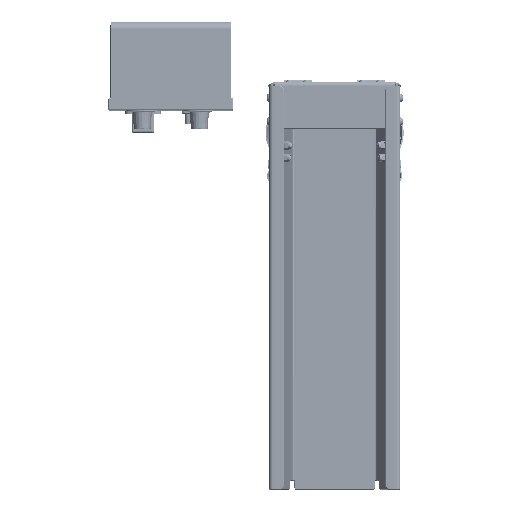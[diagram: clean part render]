
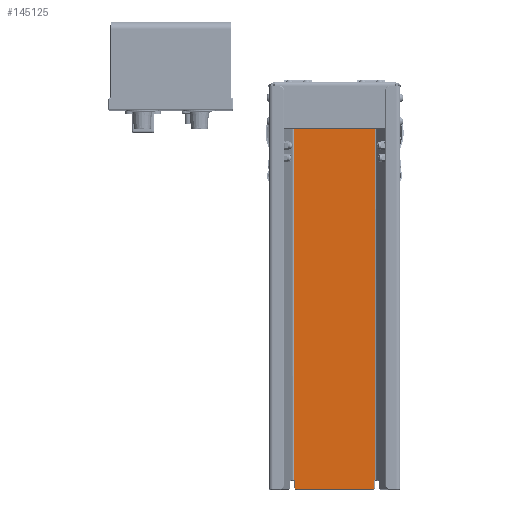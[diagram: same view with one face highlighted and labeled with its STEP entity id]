
A CAD part, top view. The second image highlights one B-rep face of the part: STEP entity #145125.
In plain terms, the highlighted planar face has unit normal (0, 0, 1).
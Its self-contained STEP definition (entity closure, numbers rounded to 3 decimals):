
#845 = CARTESIAN_POINT ( 'NONE',  ( 0., 0., 0. ) ) ;
#5058 = CARTESIAN_POINT ( 'NONE',  ( -43.145, 188.8, 0. ) ) ;
#10599 = CIRCLE ( 'NONE', #62166, 2.3 ) ;
#12305 = CARTESIAN_POINT ( 'NONE',  ( -43.145, -198.791, 0. ) ) ;
#12406 = CARTESIAN_POINT ( 'NONE',  ( 40.145, 198.8, 0. ) ) ;
#13877 = ORIENTED_EDGE ( 'NONE', *, *, #35421, .T. ) ;
#14704 = ORIENTED_EDGE ( 'NONE', *, *, #88274, .F. ) ;
#14991 = DIRECTION ( 'NONE',  ( 0., 0., 1. ) ) ;
#18795 = CARTESIAN_POINT ( 'NONE',  ( -43.183, -198.8, 0. ) ) ;
#20600 = CARTESIAN_POINT ( 'NONE',  ( -43.145, -198.791, 0. ) ) ;
#20686 = CARTESIAN_POINT ( 'NONE',  ( 42.445, 196.5, 0. ) ) ;
#21455 = ORIENTED_EDGE ( 'NONE', *, *, #108780, .T. ) ;
#23257 = VECTOR ( 'NONE', #95340, 1000. ) ;
#24450 = EDGE_CURVE ( 'NONE', #147743, #139683, #129106, .T. ) ;
#24536 = CARTESIAN_POINT ( 'NONE',  ( -42.445, 188.8, 0. ) ) ;
#25183 = CARTESIAN_POINT ( 'NONE',  ( 42.445, 196.5, 0. ) ) ;
#27006 = PLANE ( 'NONE',  #40983 ) ;
#27313 = DIRECTION ( 'NONE',  ( 1., 0., 0. ) ) ;
#28987 = VERTEX_POINT ( 'NONE', #12305 ) ;
#29985 = CARTESIAN_POINT ( 'NONE',  ( 42.445, 188.8, 0. ) ) ;
#30599 = CARTESIAN_POINT ( 'NONE',  ( -43.183, -198.8, 0. ) ) ;
#33624 = VERTEX_POINT ( 'NONE', #70149 ) ;
#33935 = ORIENTED_EDGE ( 'NONE', *, *, #38074, .T. ) ;
#34657 = CARTESIAN_POINT ( 'NONE',  ( -43.145, -200.054, 0. ) ) ;
#35206 = DIRECTION ( 'NONE',  ( 0., 1., 0. ) ) ;
#35421 = EDGE_CURVE ( 'NONE', #146135, #147743, #67062, .T. ) ;
#37361 = CARTESIAN_POINT ( 'NONE',  ( 0., -198.8, 0. ) ) ;
#38074 = EDGE_CURVE ( 'NONE', #145109, #117122, #140416, .T. ) ;
#38214 = DIRECTION ( 'NONE',  ( 1., 0., 0. ) ) ;
#40933 = VECTOR ( 'NONE', #140701, 1000. ) ;
#40983 = AXIS2_PLACEMENT_3D ( 'NONE', #845, #59357, #133196 ) ;
#44413 = VECTOR ( 'NONE', #57776, 1000. ) ;
#44550 = EDGE_CURVE ( 'NONE', #139683, #145109, #10599, .T. ) ;
#45653 = CARTESIAN_POINT ( 'NONE',  ( 43.145, 188.8, 0. ) ) ;
#48434 = DIRECTION ( 'NONE',  ( 0., -1., 0. ) ) ;
#50850 = FACE_OUTER_BOUND ( 'NONE', #92938, .T. ) ;
#57776 = DIRECTION ( 'NONE',  ( -1., 0., 0. ) ) ;
#59357 = DIRECTION ( 'NONE',  ( 0., 0., 1. ) ) ;
#59404 = VECTOR ( 'NONE', #96545, 1000. ) ;
#60227 = CARTESIAN_POINT ( 'NONE',  ( 43.158, -198.794, 0. ) ) ;
#62166 = AXIS2_PLACEMENT_3D ( 'NONE', #75846, #122823, #38214 ) ;
#62680 = LINE ( 'NONE', #37361, #59404 ) ;
#63281 = CARTESIAN_POINT ( 'NONE',  ( 43.145, -198.791, 0. ) ) ;
#64686 = ORIENTED_EDGE ( 'NONE', *, *, #120471, .T. ) ;
#67062 = LINE ( 'NONE', #67825, #44413 ) ;
#67825 = CARTESIAN_POINT ( 'NONE',  ( 43.145, 188.8, 0. ) ) ;
#68520 = DIRECTION ( 'NONE',  ( 0., 1., 0. ) ) ;
#69092 = VECTOR ( 'NONE', #81891, 1000. ) ;
#69162 = CARTESIAN_POINT ( 'NONE',  ( -45.077, 188.8, 0. ) ) ;
#69990 = CARTESIAN_POINT ( 'NONE',  ( 43.145, -198.791, 0. ) ) ;
#70149 = CARTESIAN_POINT ( 'NONE',  ( -42.445, 196.5, 0. ) ) ;
#70794 = ORIENTED_EDGE ( 'NONE', *, *, #105744, .T. ) ;
#72280 = VERTEX_POINT ( 'NONE', #5058 ) ;
#73780 = ORIENTED_EDGE ( 'NONE', *, *, #24450, .T. ) ;
#75846 = CARTESIAN_POINT ( 'NONE',  ( 40.145, 196.5, 0. ) ) ;
#81891 = DIRECTION ( 'NONE',  ( -1., 0., 0. ) ) ;
#82213 = ORIENTED_EDGE ( 'NONE', *, *, #147015, .T. ) ;
#82494 = CIRCLE ( 'NONE', #92289, 2.3 ) ;
#88274 = EDGE_CURVE ( 'NONE', #146135, #124573, #109136, .T. ) ;
#89068 = CARTESIAN_POINT ( 'NONE',  ( -43.158, -198.794, 0. ) ) ;
#90427 = CARTESIAN_POINT ( 'NONE',  ( -40.145, 198.8, 0. ) ) ;
#92289 = AXIS2_PLACEMENT_3D ( 'NONE', #95031, #14991, #27313 ) ;
#92938 = EDGE_LOOP ( 'NONE', ( #14704, #13877, #73780, #94565, #33935, #82213, #93095, #64686, #129953, #70794, #21455, #112404 ) ) ;
#93095 = ORIENTED_EDGE ( 'NONE', *, *, #116546, .T. ) ;
#94565 = ORIENTED_EDGE ( 'NONE', *, *, #44550, .T. ) ;
#95031 = CARTESIAN_POINT ( 'NONE',  ( -40.145, 196.5, 0. ) ) ;
#95340 = DIRECTION ( 'NONE',  ( 0., -1., 0. ) ) ;
#95596 = B_SPLINE_CURVE_WITH_KNOTS ( 'NONE', 3,
 ( #133306, #134076, #60227, #63281 ),
 .UNSPECIFIED., .F., .F.,
 ( 4, 4 ),
 ( 0., 1. ),
 .UNSPECIFIED. ) ;
#96545 = DIRECTION ( 'NONE',  ( 1., 0., 0. ) ) ;
#96854 = CARTESIAN_POINT ( 'NONE',  ( 43.145, 199.5, 0. ) ) ;
#103077 = LINE ( 'NONE', #115415, #23257 ) ;
#104991 = VECTOR ( 'NONE', #68520, 1000. ) ;
#105744 = EDGE_CURVE ( 'NONE', #28987, #147068, #107805, .T. ) ;
#107805 = B_SPLINE_CURVE_WITH_KNOTS ( 'NONE', 3,
 ( #20600, #89068, #136041, #30599 ),
 .UNSPECIFIED., .F., .F.,
 ( 4, 4 ),
 ( 0., 1. ),
 .UNSPECIFIED. ) ;
#108780 = EDGE_CURVE ( 'NONE', #147068, #141094, #62680, .T. ) ;
#109136 = LINE ( 'NONE', #96854, #137779 ) ;
#111772 = VERTEX_POINT ( 'NONE', #24536 ) ;
#112404 = ORIENTED_EDGE ( 'NONE', *, *, #120072, .T. ) ;
#115415 = CARTESIAN_POINT ( 'NONE',  ( -42.445, 189.5, 0. ) ) ;
#116546 = EDGE_CURVE ( 'NONE', #33624, #111772, #103077, .T. ) ;
#117122 = VERTEX_POINT ( 'NONE', #90427 ) ;
#120072 = EDGE_CURVE ( 'NONE', #141094, #124573, #95596, .T. ) ;
#120471 = EDGE_CURVE ( 'NONE', #111772, #72280, #146180, .T. ) ;
#122823 = DIRECTION ( 'NONE',  ( 0., 0., 1. ) ) ;
#124573 = VERTEX_POINT ( 'NONE', #69990 ) ;
#126561 = VECTOR ( 'NONE', #35206, 1000. ) ;
#126716 = CARTESIAN_POINT ( 'NONE',  ( 43.183, -198.8, 0. ) ) ;
#129106 = LINE ( 'NONE', #25183, #126561 ) ;
#129953 = ORIENTED_EDGE ( 'NONE', *, *, #150059, .F. ) ;
#133196 = DIRECTION ( 'NONE',  ( 1., 0., 0. ) ) ;
#133306 = CARTESIAN_POINT ( 'NONE',  ( 43.183, -198.8, 0. ) ) ;
#134076 = CARTESIAN_POINT ( 'NONE',  ( 43.171, -198.797, 0. ) ) ;
#136041 = CARTESIAN_POINT ( 'NONE',  ( -43.171, -198.797, 0. ) ) ;
#137779 = VECTOR ( 'NONE', #48434, 1000. ) ;
#139683 = VERTEX_POINT ( 'NONE', #20686 ) ;
#140416 = LINE ( 'NONE', #151980, #69092 ) ;
#140701 = DIRECTION ( 'NONE',  ( -1., 0., 0. ) ) ;
#141094 = VERTEX_POINT ( 'NONE', #126716 ) ;
#141573 = LINE ( 'NONE', #34657, #104991 ) ;
#145109 = VERTEX_POINT ( 'NONE', #12406 ) ;
#145125 = ADVANCED_FACE ( 'NONE', ( #50850 ), #27006, .T. ) ;
#146135 = VERTEX_POINT ( 'NONE', #45653 ) ;
#146180 = LINE ( 'NONE', #69162, #40933 ) ;
#147015 = EDGE_CURVE ( 'NONE', #117122, #33624, #82494, .T. ) ;
#147068 = VERTEX_POINT ( 'NONE', #18795 ) ;
#147743 = VERTEX_POINT ( 'NONE', #29985 ) ;
#150059 = EDGE_CURVE ( 'NONE', #28987, #72280, #141573, .T. ) ;
#151980 = CARTESIAN_POINT ( 'NONE',  ( 0., 198.8, 0. ) ) ;
